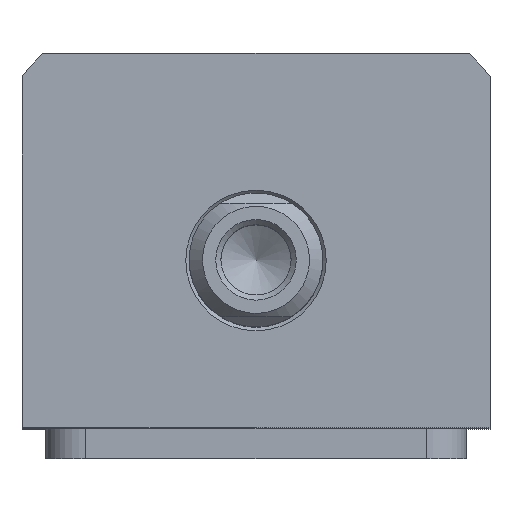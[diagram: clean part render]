
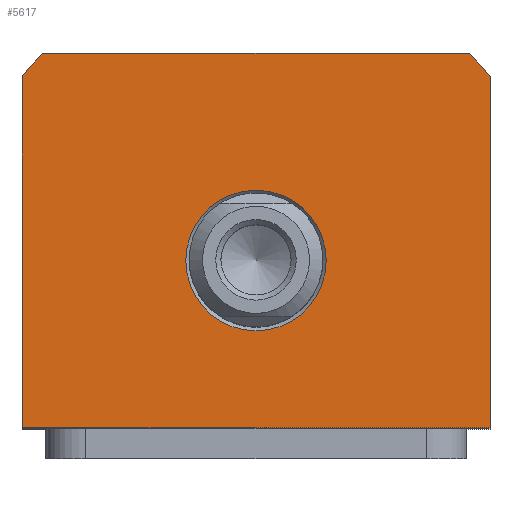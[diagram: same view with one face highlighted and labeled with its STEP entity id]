
A CAD part, top view. The second image highlights one B-rep face of the part: STEP entity #5617.
In plain terms, the highlighted planar face has unit normal (0, 0, 1).
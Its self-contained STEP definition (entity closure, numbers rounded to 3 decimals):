
#2619=LINE('',#16808,#3519);
#2637=LINE('',#17452,#3537);
#2659=LINE('',#17524,#3559);
#2662=LINE('',#17533,#3562);
#3519=VECTOR('',#12241,1.);
#3537=VECTOR('',#12353,1.);
#3559=VECTOR('',#12415,1.);
#3562=VECTOR('',#12426,1.);
#4504=PLANE('',#11777);
#5617=ADVANCED_FACE('',(#6219,#6220),#4504,.T.);
#6069=CIRCLE('',#11706,10.5);
#6097=CIRCLE('',#11754,44.5);
#6110=CIRCLE('',#11774,44.5);
#6219=FACE_BOUND('',#6428,.T.);
#6220=FACE_BOUND('',#6429,.T.);
#6428=EDGE_LOOP('',(#7225));
#6429=EDGE_LOOP('',(#7226,#7227,#7228,#7229,#7230,#7231));
#7225=ORIENTED_EDGE('',*,*,#10428,.T.);
#7226=ORIENTED_EDGE('',*,*,#10513,.T.);
#7227=ORIENTED_EDGE('',*,*,#10427,.T.);
#7228=ORIENTED_EDGE('',*,*,#10516,.T.);
#7229=ORIENTED_EDGE('',*,*,#10549,.T.);
#7230=ORIENTED_EDGE('',*,*,#10552,.T.);
#7231=ORIENTED_EDGE('',*,*,#10554,.T.);
#9515=VERTEX_POINT('',#16778);
#9530=VERTEX_POINT('',#16807);
#9531=VERTEX_POINT('',#16811);
#9608=VERTEX_POINT('',#17448);
#9611=VERTEX_POINT('',#17457);
#9635=VERTEX_POINT('',#17523);
#9637=VERTEX_POINT('',#17529);
#10427=EDGE_CURVE('',#9515,#9530,#2619,.T.);
#10428=EDGE_CURVE('',#9531,#9531,#6069,.T.);
#10513=EDGE_CURVE('',#9608,#9515,#2637,.T.);
#10516=EDGE_CURVE('',#9530,#9611,#6097,.T.);
#10549=EDGE_CURVE('',#9611,#9635,#2659,.T.);
#10552=EDGE_CURVE('',#9635,#9637,#6110,.T.);
#10554=EDGE_CURVE('',#9637,#9608,#2662,.T.);
#11706=AXIS2_PLACEMENT_3D('',#16810,#12244,#12245);
#11754=AXIS2_PLACEMENT_3D('',#17458,#12359,#12360);
#11774=AXIS2_PLACEMENT_3D('',#17530,#12421,#12422);
#11777=AXIS2_PLACEMENT_3D('',#17546,#12436,#12437);
#12241=DIRECTION('',(0.,1.,0.));
#12244=DIRECTION('',(0.,0.,-1.));
#12245=DIRECTION('',(1.,0.,0.));
#12353=DIRECTION('',(1.,0.,0.));
#12359=DIRECTION('',(0.,0.,1.));
#12360=DIRECTION('',(1.,0.,0.));
#12415=DIRECTION('',(-1.,0.,0.));
#12421=DIRECTION('',(0.,0.,1.));
#12422=DIRECTION('',(1.,0.,0.));
#12426=DIRECTION('',(0.,-1.,0.));
#12436=DIRECTION('',(0.,0.,1.));
#12437=DIRECTION('',(-1.,0.,0.));
#16778=CARTESIAN_POINT('',(35.,-25.,59.5));
#16807=CARTESIAN_POINT('',(35.,27.482,59.5));
#16808=CARTESIAN_POINT('',(35.,27.482,59.5));
#16810=CARTESIAN_POINT('',(0.,0.,59.5));
#16811=CARTESIAN_POINT('',(10.5,0.,59.5));
#17448=CARTESIAN_POINT('',(-35.,-25.,59.5));
#17452=CARTESIAN_POINT('',(35.,-25.,59.5));
#17457=CARTESIAN_POINT('',(31.926,31.,59.5));
#17458=CARTESIAN_POINT('',(0.,0.,59.5));
#17523=CARTESIAN_POINT('',(-31.926,31.,59.5));
#17524=CARTESIAN_POINT('',(-31.926,31.,59.5));
#17529=CARTESIAN_POINT('',(-35.,27.482,59.5));
#17530=CARTESIAN_POINT('',(0.,0.,59.5));
#17533=CARTESIAN_POINT('',(-35.,-25.,59.5));
#17546=CARTESIAN_POINT('',(0.,0.,59.5));
